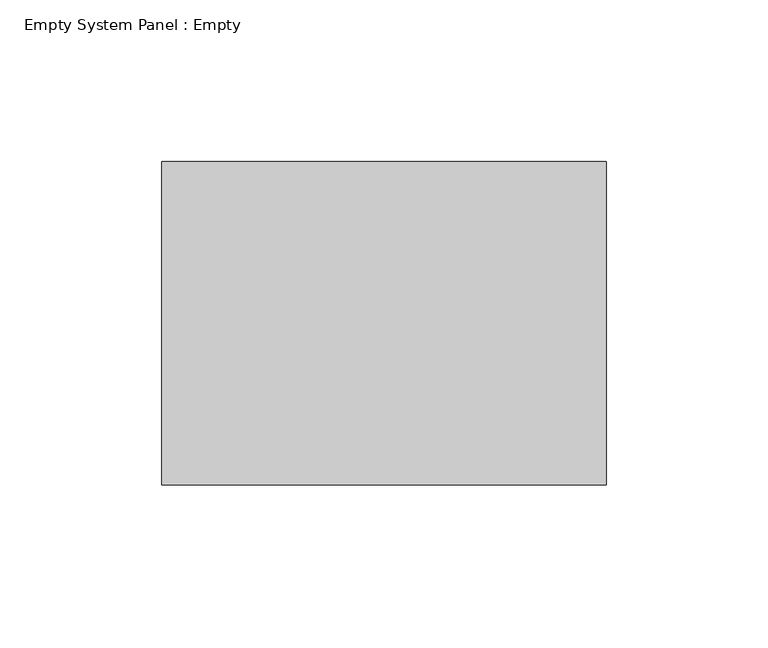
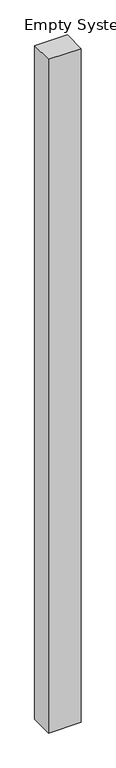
"""IFC4 building model written with IfcOpenShell, lengths in millimetres: plate geometry, Empty System Panel : Empty."""

from ifc_helpers import new_model, si_unit, origin, origin_with_axes, place, context, project, spatial, polyline, outline, extrude, source, transform, mapped, element, save


def empty_system_panel_empty_4d48d162(model_context):
    return source(origin(), model_context, "Body", "SweptSolid", [
        extrude(outline(polyline([(68.7499998, 50.0), (-68.7499998, 50.0), (-68.7499998, 150.0), (68.7499998, 150.0), (68.7499998, 50.0)])), origin_with_axes(), (0.0, 0.0, 1.0), 3000.0),
    ])


if __name__ == "__main__":
    model = new_model("IFC4")
    model_context = context("Model", 3, world=origin())
    ifc_project = project(units=[si_unit("LENGTHUNIT", "METRE", prefix="MILLI")], contexts=[model_context])
    site = spatial("IfcSite", under=ifc_project)
    building = spatial("IfcBuilding", under=site)
    placement = place(None, origin())
    empty_system_panel_empty_shape = empty_system_panel_empty_4d48d162(model_context)
    element("IfcPlate", 1, ObjectType="Empty System Panel : Empty", at=placement, inside=building, context=model_context, shape_type="MappedRepresentation", body=[
        mapped(empty_system_panel_empty_shape, transform((0.0, 0.0, 0.0), x_axis=(1.0, 0.0, 0.0), y_axis=(0.0, 1.0, 0.0), z_axis=(0.0, 0.0, 1.0))),
    ])
    save(model, "model.ifc")
